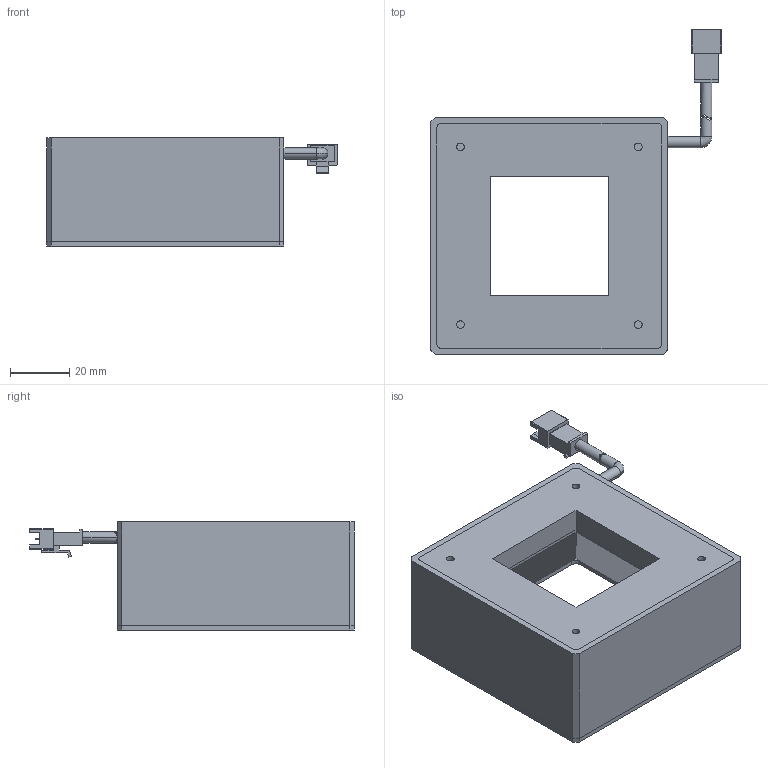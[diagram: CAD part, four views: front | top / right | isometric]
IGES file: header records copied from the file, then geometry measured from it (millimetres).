
Start section: File generated by Shapr3D Version 3.0
Global section: file name: temp_export; native system: Shapr3D; preprocessor: 3.0; date: 220221.013642; units: millimetre
Bounding box: 98 x 109.62 x 36.5 mm (x, y, z)
Volume: 118608 mm3; surface area: 59131.9 mm2
Topology: 6 solids, 6 shells, 224 faces, 576 edges, 362 vertices
Faces by surface type: plane 124, cylinder 66, cone 32, revolution 2
